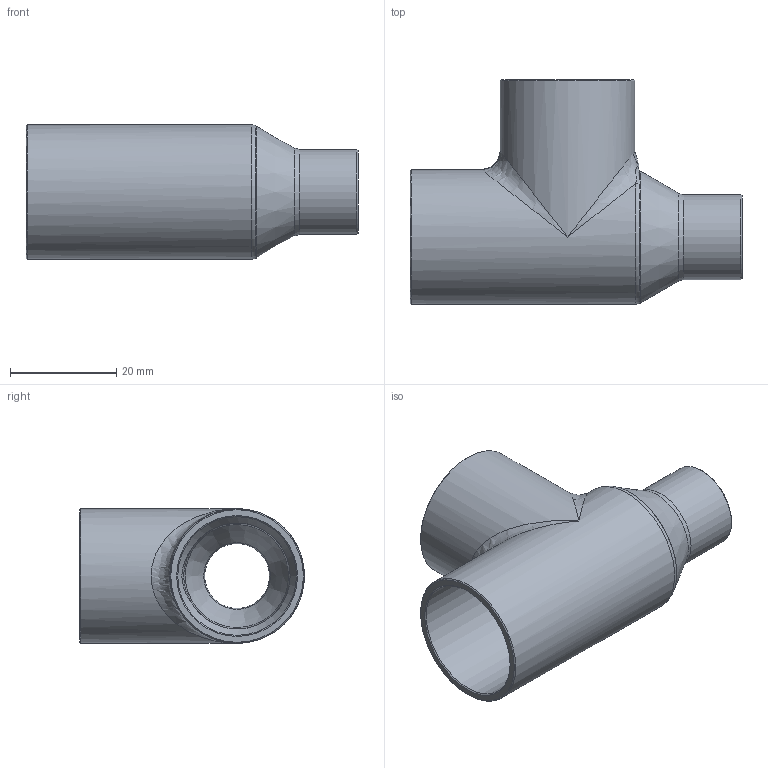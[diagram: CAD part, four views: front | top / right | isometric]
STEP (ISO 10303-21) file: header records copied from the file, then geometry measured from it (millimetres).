
FILE_DESCRIPTION((''),'2;1');
FILE_NAME('G:\SANHA-Ternat\Technik\Management\Bouwmaten + markeringen\z-maattekeningen 3D\29000s\29130787812_3d.stp','2017-08-01T10:59:31',('vdvijverd'),(''),'Autodesk Inventor 2009','Autodesk Inventor 2009','');
FILE_SCHEMA(('AUTOMOTIVE_DESIGN { 1 0 10303 214 1 1 1 1 }'));
Length unit declared in the file: millimetre
Products named in the file (1): 29130787812_3d
Bounding box: 62.6 x 42.4 x 25.4 mm (x, y, z)
Volume: 10445.9 mm3; surface area: 10877.8 mm2
Topology: 1 solids, 1 shells, 36 faces, 91 edges, 52 vertices
Faces by surface type: cone 10, bspline 10, cylinder 9, plane 4, torus 3
Full cylindrical faces by diameter (mm): 12.82 x1, 16.02 x1, 22.375 x2, 25.4 x2
Entity records: 2555 total; most frequent: CARTESIAN_POINT 1835, DIRECTION 142, ORIENTED_EDGE 122, AXIS2_PLACEMENT_3D 71, EDGE_CURVE 61, EDGE_LOOP 59, VERTEX_POINT 46, FACE_OUTER_BOUND 36
